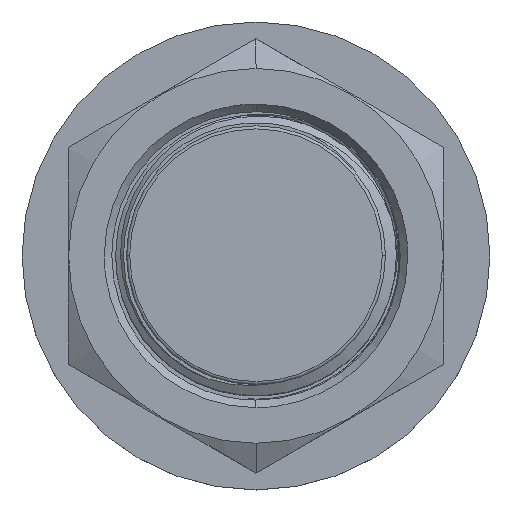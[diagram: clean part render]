
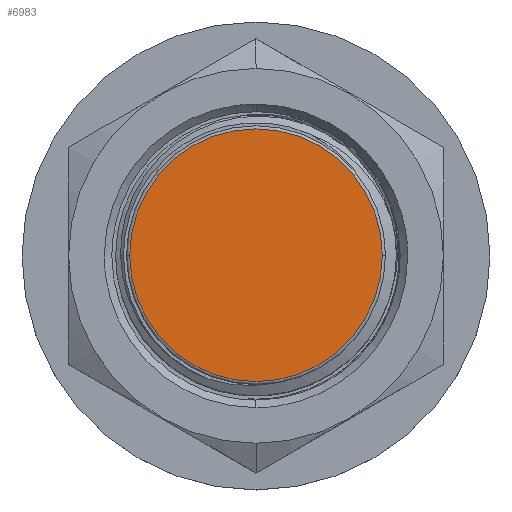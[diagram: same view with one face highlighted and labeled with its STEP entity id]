
A CAD part, top view. The second image highlights one B-rep face of the part: STEP entity #6983.
In plain terms, the highlighted planar face has unit normal (0, 0, 1).
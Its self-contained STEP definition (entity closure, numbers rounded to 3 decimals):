
#772 = FACE_OUTER_BOUND ( 'NONE', #5344, .T. ) ;
#870 = CARTESIAN_POINT ( 'NONE',  ( 0., 0., 0.6 ) ) ;
#1945 = EDGE_CURVE ( 'NONE', #8313, #5375, #11988, .T. ) ;
#2860 = EDGE_CURVE ( 'NONE', #5375, #8313, #12480, .T. ) ;
#3412 = ORIENTED_EDGE ( 'NONE', *, *, #2860, .T. ) ;
#3853 = CARTESIAN_POINT ( 'NONE',  ( 8.1, 0., 0.6 ) ) ;
#5344 = EDGE_LOOP ( 'NONE', ( #9754, #3412 ) ) ;
#5375 = VERTEX_POINT ( 'NONE', #6664 ) ;
#5629 = DIRECTION ( 'NONE',  ( 0., 0., 1. ) ) ;
#5725 = PLANE ( 'NONE',  #9015 ) ;
#6579 = AXIS2_PLACEMENT_3D ( 'NONE', #870, #5629, #11488 ) ;
#6664 = CARTESIAN_POINT ( 'NONE',  ( -8.1, 0., 0.6 ) ) ;
#6983 = ADVANCED_FACE ( 'NONE', ( #772 ), #5725, .T. ) ;
#7276 = DIRECTION ( 'NONE',  ( 0., 0., 1. ) ) ;
#8056 = AXIS2_PLACEMENT_3D ( 'NONE', #11991, #7276, #12057 ) ;
#8313 = VERTEX_POINT ( 'NONE', #3853 ) ;
#8566 = DIRECTION ( 'NONE',  ( 1., 0., 0. ) ) ;
#9015 = AXIS2_PLACEMENT_3D ( 'NONE', #10459, #12270, #8566 ) ;
#9754 = ORIENTED_EDGE ( 'NONE', *, *, #1945, .T. ) ;
#10459 = CARTESIAN_POINT ( 'NONE',  ( 0., 0., 0.6 ) ) ;
#11488 = DIRECTION ( 'NONE',  ( 1., 0., 0. ) ) ;
#11988 = CIRCLE ( 'NONE', #6579, 8.1 ) ;
#11991 = CARTESIAN_POINT ( 'NONE',  ( 0., 0., 0.6 ) ) ;
#12057 = DIRECTION ( 'NONE',  ( 1., 0., 0. ) ) ;
#12270 = DIRECTION ( 'NONE',  ( 0., 0., 1. ) ) ;
#12480 = CIRCLE ( 'NONE', #8056, 8.1 ) ;
